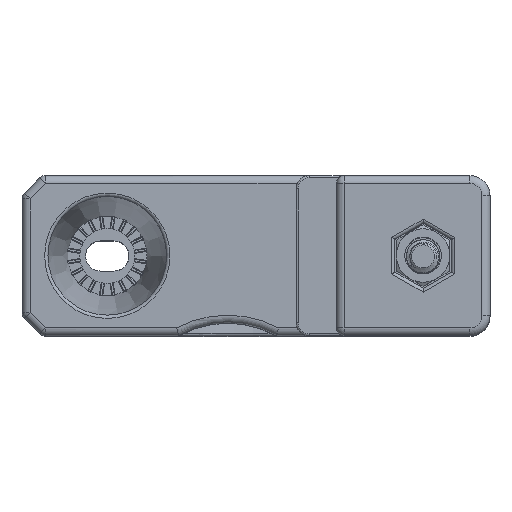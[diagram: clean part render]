
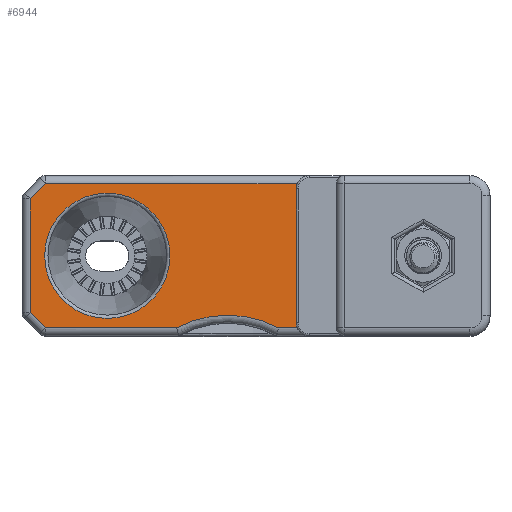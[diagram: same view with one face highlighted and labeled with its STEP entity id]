
A CAD part, top view. The second image highlights one B-rep face of the part: STEP entity #6944.
In plain terms, the highlighted planar face has unit normal (0, 0, 1).
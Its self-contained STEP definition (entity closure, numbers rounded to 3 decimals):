
#129=FACE_BOUND('',#971,.T.);
#183=PLANE('',#7541);
#541=FACE_OUTER_BOUND('',#970,.T.);
#970=EDGE_LOOP('',(#5416,#5417,#5418,#5419,#5420,#5421,#5422,#5423));
#971=EDGE_LOOP('',(#5424,#5425));
#1353=CIRCLE('',#7538,16.054);
#1355=CIRCLE('',#7542,9.366);
#1356=CIRCLE('',#7543,9.366);
#1867=LINE('',#17260,#2410);
#1870=LINE('',#17288,#2413);
#1873=LINE('',#17330,#2416);
#1876=LINE('',#17335,#2419);
#1880=LINE('',#17341,#2423);
#1884=LINE('',#17347,#2427);
#1886=LINE('',#17354,#2429);
#2410=VECTOR('',#8756,10.);
#2413=VECTOR('',#8773,10.);
#2416=VECTOR('',#8806,10.);
#2419=VECTOR('',#8813,10.);
#2423=VECTOR('',#8821,10.);
#2427=VECTOR('',#8829,10.);
#2429=VECTOR('',#8841,10.);
#3096=VERTEX_POINT('',#17258);
#3097=VERTEX_POINT('',#17259);
#3099=VERTEX_POINT('',#17278);
#3101=VERTEX_POINT('',#17287);
#3103=VERTEX_POINT('',#17306);
#3106=VERTEX_POINT('',#17313);
#3109=VERTEX_POINT('',#17320);
#3110=VERTEX_POINT('',#17324);
#3112=VERTEX_POINT('',#17355);
#3113=VERTEX_POINT('',#17356);
#3916=EDGE_CURVE('',#3096,#3097,#1867,.T.);
#3924=EDGE_CURVE('',#3101,#3099,#1870,.T.);
#3938=EDGE_CURVE('',#3110,#3109,#1873,.T.);
#3941=EDGE_CURVE('',#3106,#3110,#1876,.T.);
#3945=EDGE_CURVE('',#3103,#3106,#1880,.T.);
#3949=EDGE_CURVE('',#3099,#3103,#1884,.T.);
#3950=EDGE_CURVE('',#3097,#3101,#1353,.T.);
#3953=EDGE_CURVE('',#3096,#3109,#1886,.T.);
#3954=EDGE_CURVE('',#3112,#3113,#1355,.T.);
#3955=EDGE_CURVE('',#3113,#3112,#1356,.T.);
#5416=ORIENTED_EDGE('',*,*,#3938,.F.);
#5417=ORIENTED_EDGE('',*,*,#3941,.F.);
#5418=ORIENTED_EDGE('',*,*,#3945,.F.);
#5419=ORIENTED_EDGE('',*,*,#3949,.F.);
#5420=ORIENTED_EDGE('',*,*,#3924,.F.);
#5421=ORIENTED_EDGE('',*,*,#3950,.F.);
#5422=ORIENTED_EDGE('',*,*,#3916,.F.);
#5423=ORIENTED_EDGE('',*,*,#3953,.T.);
#5424=ORIENTED_EDGE('',*,*,#3954,.F.);
#5425=ORIENTED_EDGE('',*,*,#3955,.F.);
#6944=ADVANCED_FACE('',(#541,#129),#183,.T.);
#7538=AXIS2_PLACEMENT_3D('',#17349,#8832,#8833);
#7541=AXIS2_PLACEMENT_3D('',#17353,#8839,#8840);
#7542=AXIS2_PLACEMENT_3D('',#17357,#8842,#8843);
#7543=AXIS2_PLACEMENT_3D('',#17358,#8844,#8845);
#8756=DIRECTION('',(-1.,0.,0.));
#8773=DIRECTION('',(-1.,0.,0.));
#8806=DIRECTION('',(1.,0.,0.));
#8813=DIRECTION('',(0.707,0.707,0.));
#8821=DIRECTION('',(0.,1.,0.));
#8829=DIRECTION('',(-0.707,0.707,0.));
#8832=DIRECTION('center_axis',(0.,0.,1.));
#8833=DIRECTION('ref_axis',(0.,1.,0.));
#8839=DIRECTION('center_axis',(0.,0.,1.));
#8840=DIRECTION('ref_axis',(1.,0.,0.));
#8841=DIRECTION('',(0.,1.,0.));
#8842=DIRECTION('center_axis',(0.,0.,1.));
#8843=DIRECTION('ref_axis',(1.,0.,0.));
#8844=DIRECTION('center_axis',(0.,0.,1.));
#8845=DIRECTION('ref_axis',(1.,0.,0.));
#17258=CARTESIAN_POINT('',(44.,-10.8,20.));
#17259=CARTESIAN_POINT('',(38.351,-10.8,20.));
#17260=CARTESIAN_POINT('',(17.5,-10.8,20.));
#17278=CARTESIAN_POINT('',(3.497,-10.8,20.));
#17287=CARTESIAN_POINT('',(23.149,-10.8,20.));
#17288=CARTESIAN_POINT('',(17.5,-10.8,20.));
#17306=CARTESIAN_POINT('',(1.2,-8.503,20.));
#17313=CARTESIAN_POINT('',(1.2,8.503,20.));
#17320=CARTESIAN_POINT('',(44.,10.8,20.));
#17324=CARTESIAN_POINT('',(3.497,10.8,20.));
#17330=CARTESIAN_POINT('',(17.5,10.8,20.));
#17335=CARTESIAN_POINT('',(-0.651,6.651,20.));
#17341=CARTESIAN_POINT('',(1.2,0.,20.));
#17347=CARTESIAN_POINT('',(-0.651,-6.651,20.));
#17349=CARTESIAN_POINT('Origin',(30.75,-24.941,20.));
#17353=CARTESIAN_POINT('Origin',(0.,0.,20.));
#17354=CARTESIAN_POINT('',(44.,0.,20.));
#17355=CARTESIAN_POINT('',(3.384,0.,20.));
#17356=CARTESIAN_POINT('',(22.116,0.,20.));
#17357=CARTESIAN_POINT('Origin',(12.75,0.,20.));
#17358=CARTESIAN_POINT('Origin',(12.75,0.,20.));
